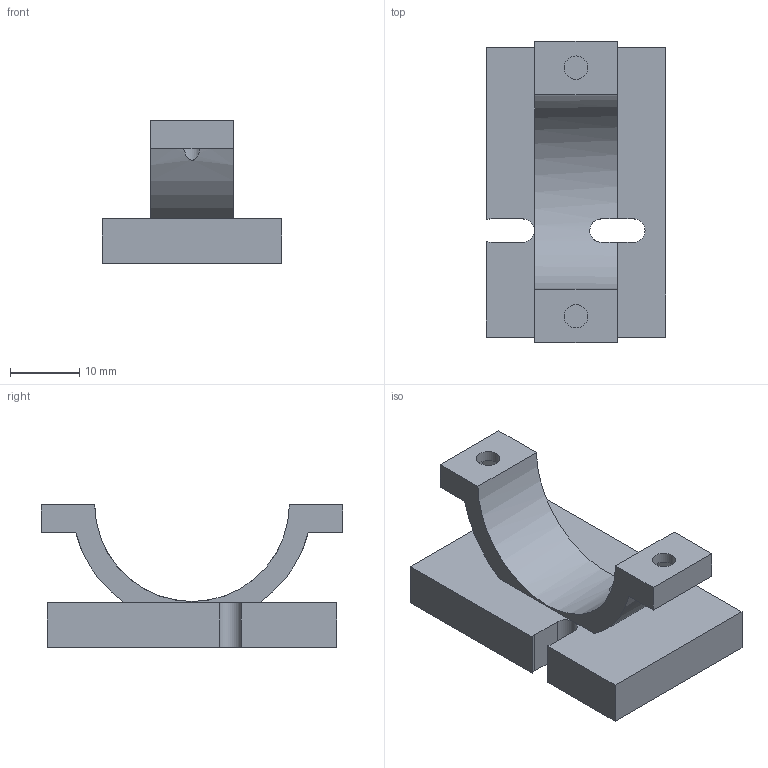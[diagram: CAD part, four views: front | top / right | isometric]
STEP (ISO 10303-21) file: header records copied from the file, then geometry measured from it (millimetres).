
FILE_DESCRIPTION(('Open CASCADE Model'),'2;1');
FILE_NAME('E_slotted_motor_saddle','2026-11-05T16:12:21',('Author'),( 'Open CASCADE'),'Open CASCADE STEP processor 7.9','build123d', 'Unknown');
FILE_SCHEMA(('AUTOMOTIVE_DESIGN { 1 0 10303 214 1 1 1 1 }'));
Length unit declared in the file: millimetre
Products named in the file (2): E_slotted_motor_saddle
Assembly tree (1 placements, depth 2):
  E_slotted_motor_saddle
    E_slotted_motor_saddle
Bounding box: 26 x 43.6 x 20.6 mm (x, y, z)
Volume: 8361.7 mm3; surface area: 4608.4 mm2
Topology: 1 solids, 1 shells, 48 faces, 136 edges, 89 vertices
Faces by surface type: plane 36, cylinder 12
Full cylindrical faces by diameter (mm): 3.4 x2
Entity records: 3801 total; most frequent: CARTESIAN_POINT 1035, DIRECTION 501, LINE 337, VECTOR 337, ORIENTED_EDGE 272, PCURVE 272, DEFINITIONAL_REPRESENTATION 272, EDGE_CURVE 136
